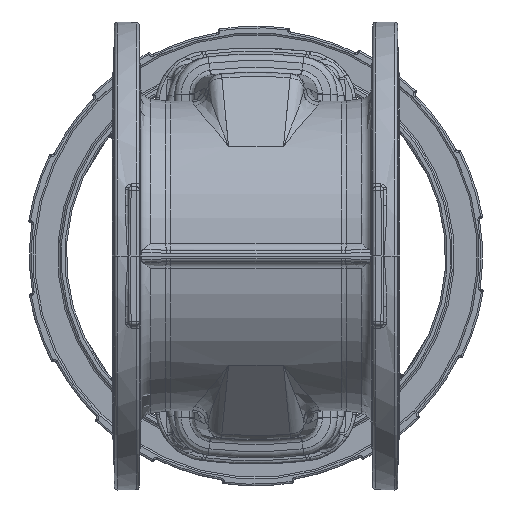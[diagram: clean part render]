
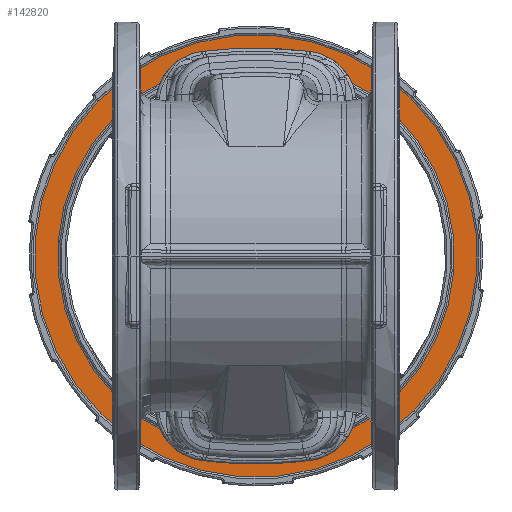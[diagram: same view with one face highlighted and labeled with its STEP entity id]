
A CAD part, front view. The second image highlights one B-rep face of the part: STEP entity #142820.
In plain terms, the highlighted planar face has unit normal (0, -1, 0).
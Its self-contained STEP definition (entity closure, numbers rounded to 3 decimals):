
#2772 = AXIS2_PLACEMENT_3D ( 'NONE', #102769, #136629, #47938 ) ;
#6046 = DIRECTION ( 'NONE',  ( 0., 1., 0. ) ) ;
#7189 = EDGE_CURVE ( 'NONE', #92680, #90902, #85739, .T. ) ;
#12286 = EDGE_LOOP ( 'NONE', ( #116215, #111655 ) ) ;
#14800 = EDGE_CURVE ( 'NONE', #93761, #141740, #60519, .T. ) ;
#17598 = CARTESIAN_POINT ( 'NONE',  ( 171., -10.383, 0. ) ) ;
#22318 = AXIS2_PLACEMENT_3D ( 'NONE', #41475, #97047, #94215 ) ;
#32356 = ORIENTED_EDGE ( 'NONE', *, *, #36020, .T. ) ;
#35459 = AXIS2_PLACEMENT_3D ( 'NONE', #109664, #96030, #98867 ) ;
#36020 = EDGE_CURVE ( 'NONE', #90902, #92680, #125969, .T. ) ;
#41475 = CARTESIAN_POINT ( 'NONE',  ( 0., -10.383, 0. ) ) ;
#42562 = ORIENTED_EDGE ( 'NONE', *, *, #7189, .T. ) ;
#42651 = CARTESIAN_POINT ( 'NONE',  ( 0., -10.383, 192.5 ) ) ;
#47938 = DIRECTION ( 'NONE',  ( 0., 0., 1. ) ) ;
#50019 = DIRECTION ( 'NONE',  ( 0., -1., 0. ) ) ;
#58698 = CARTESIAN_POINT ( 'NONE',  ( 0., -10.383, 0. ) ) ;
#60519 = CIRCLE ( 'NONE', #35459, 192.5 ) ;
#64510 = EDGE_CURVE ( 'NONE', #141740, #93761, #91870, .T. ) ;
#82579 = PLANE ( 'NONE',  #121022 ) ;
#85739 = CIRCLE ( 'NONE', #2772, 172.5 ) ;
#86274 = CARTESIAN_POINT ( 'NONE',  ( 0., -10.383, -172.5 ) ) ;
#88739 = CARTESIAN_POINT ( 'NONE',  ( 0., -10.383, -192.5 ) ) ;
#90553 = FACE_BOUND ( 'NONE', #140168, .T. ) ;
#90902 = VERTEX_POINT ( 'NONE', #142020 ) ;
#91870 = CIRCLE ( 'NONE', #108010, 192.5 ) ;
#92680 = VERTEX_POINT ( 'NONE', #86274 ) ;
#93761 = VERTEX_POINT ( 'NONE', #42651 ) ;
#94215 = DIRECTION ( 'NONE',  ( 0., 0., 1. ) ) ;
#96030 = DIRECTION ( 'NONE',  ( 0., -1., 0. ) ) ;
#97047 = DIRECTION ( 'NONE',  ( 0., 1., 0. ) ) ;
#98867 = DIRECTION ( 'NONE',  ( 0., 0., 1. ) ) ;
#102769 = CARTESIAN_POINT ( 'NONE',  ( 0., -10.383, 0. ) ) ;
#107761 = DIRECTION ( 'NONE',  ( 0., 0., 1. ) ) ;
#108010 = AXIS2_PLACEMENT_3D ( 'NONE', #58698, #50019, #136558 ) ;
#109664 = CARTESIAN_POINT ( 'NONE',  ( 0., -10.383, 0. ) ) ;
#111655 = ORIENTED_EDGE ( 'NONE', *, *, #64510, .T. ) ;
#116215 = ORIENTED_EDGE ( 'NONE', *, *, #14800, .T. ) ;
#121022 = AXIS2_PLACEMENT_3D ( 'NONE', #17598, #6046, #107761 ) ;
#125969 = CIRCLE ( 'NONE', #22318, 172.5 ) ;
#134536 = FACE_OUTER_BOUND ( 'NONE', #12286, .T. ) ;
#136558 = DIRECTION ( 'NONE',  ( 0., 0., 1. ) ) ;
#136629 = DIRECTION ( 'NONE',  ( 0., 1., 0. ) ) ;
#140168 = EDGE_LOOP ( 'NONE', ( #32356, #42562 ) ) ;
#141740 = VERTEX_POINT ( 'NONE', #88739 ) ;
#142020 = CARTESIAN_POINT ( 'NONE',  ( 0., -10.383, 172.5 ) ) ;
#142820 = ADVANCED_FACE ( 'NONE', ( #90553, #134536 ), #82579, .F. ) ;
